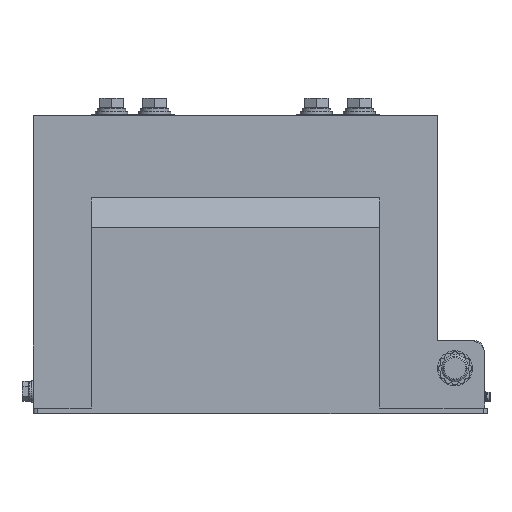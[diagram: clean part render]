
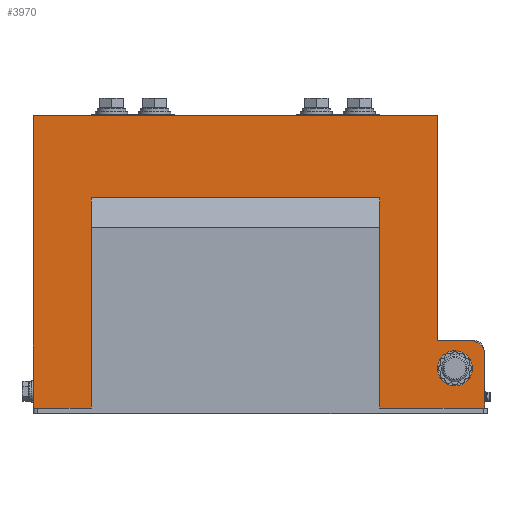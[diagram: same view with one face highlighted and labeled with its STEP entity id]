
A CAD part, top view. The second image highlights one B-rep face of the part: STEP entity #3970.
In plain terms, the highlighted planar face has unit normal (0, 0, 1).
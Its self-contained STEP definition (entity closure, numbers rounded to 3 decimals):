
#337 = ORIENTED_EDGE ( 'NONE', *, *, #16211, .F. ) ;
#388 = CARTESIAN_POINT ( 'NONE',  ( 163., 29.5, 52. ) ) ;
#433 = DIRECTION ( 'NONE',  ( 0., 0., 1. ) ) ;
#460 = DIRECTION ( 'NONE',  ( -1., 0., 0. ) ) ;
#1843 = LINE ( 'NONE', #21632, #16765 ) ;
#1857 = CARTESIAN_POINT ( 'NONE',  ( -107., 156., 52. ) ) ;
#2078 = ORIENTED_EDGE ( 'NONE', *, *, #9756, .T. ) ;
#2272 = CARTESIAN_POINT ( 'NONE',  ( -107., 0., 52. ) ) ;
#2539 = CARTESIAN_POINT ( 'NONE',  ( -150., 217., 52. ) ) ;
#2779 = LINE ( 'NONE', #6819, #4567 ) ;
#2828 = DIRECTION ( 'NONE',  ( 1., 0., 0. ) ) ;
#3149 = DIRECTION ( 'NONE',  ( 0., 1., 0. ) ) ;
#3489 = VERTEX_POINT ( 'NONE', #14036 ) ;
#3756 = CARTESIAN_POINT ( 'NONE',  ( 130., 50., 52. ) ) ;
#3821 = VERTEX_POINT ( 'NONE', #9157 ) ;
#3970 = ADVANCED_FACE ( 'NONE', ( #20253, #19315 ), #7451, .T. ) ;
#4399 = EDGE_CURVE ( 'NONE', #16585, #3821, #19595, .T. ) ;
#4416 = VECTOR ( 'NONE', #2828, 1000. ) ;
#4567 = VECTOR ( 'NONE', #6625, 1000. ) ;
#4639 = DIRECTION ( 'NONE',  ( 1., 0., 0. ) ) ;
#4715 = EDGE_CURVE ( 'NONE', #27281, #20368, #23004, .T. ) ;
#5421 = EDGE_CURVE ( 'NONE', #30264, #20272, #11884, .T. ) ;
#5491 = ORIENTED_EDGE ( 'NONE', *, *, #14392, .T. ) ;
#5595 = CIRCLE ( 'NONE', #6522, 13. ) ;
#5687 = ORIENTED_EDGE ( 'NONE', *, *, #20088, .F. ) ;
#5885 = ORIENTED_EDGE ( 'NONE', *, *, #16057, .F. ) ;
#5922 = ORIENTED_EDGE ( 'NONE', *, *, #19675, .T. ) ;
#6522 = AXIS2_PLACEMENT_3D ( 'NONE', #22218, #21452, #21481 ) ;
#6625 = DIRECTION ( 'NONE',  ( 0., 1., 0. ) ) ;
#6819 = CARTESIAN_POINT ( 'NONE',  ( 107., 0., 52. ) ) ;
#7406 = ORIENTED_EDGE ( 'NONE', *, *, #21506, .T. ) ;
#7451 = PLANE ( 'NONE',  #31288 ) ;
#7492 = CARTESIAN_POINT ( 'NONE',  ( 0., 0., 52. ) ) ;
#7571 = DIRECTION ( 'NONE',  ( 1., 0., 0. ) ) ;
#7852 = CARTESIAN_POINT ( 'NONE',  ( 150., 50., 52. ) ) ;
#8053 = DIRECTION ( 'NONE',  ( 0., 0., 1. ) ) ;
#8337 = CIRCLE ( 'NONE', #26566, 13. ) ;
#8679 = EDGE_CURVE ( 'NONE', #27428, #22296, #5595, .T. ) ;
#9157 = CARTESIAN_POINT ( 'NONE',  ( 185., 0., 52. ) ) ;
#9163 = LINE ( 'NONE', #2272, #16076 ) ;
#9756 = EDGE_CURVE ( 'NONE', #3821, #3489, #9809, .T. ) ;
#9776 = VECTOR ( 'NONE', #20464, 1000. ) ;
#9788 = CARTESIAN_POINT ( 'NONE',  ( -150., 0., 52. ) ) ;
#9809 = LINE ( 'NONE', #21009, #9776 ) ;
#10072 = CARTESIAN_POINT ( 'NONE',  ( 150., 217., 52. ) ) ;
#10554 = VERTEX_POINT ( 'NONE', #21638 ) ;
#11111 = ORIENTED_EDGE ( 'NONE', *, *, #4715, .T. ) ;
#11718 = ORIENTED_EDGE ( 'NONE', *, *, #15509, .T. ) ;
#11884 = LINE ( 'NONE', #17297, #12101 ) ;
#12101 = VECTOR ( 'NONE', #17262, 1000. ) ;
#12681 = AXIS2_PLACEMENT_3D ( 'NONE', #15914, #15937, #15975 ) ;
#12786 = CARTESIAN_POINT ( 'NONE',  ( 107., 156., 52. ) ) ;
#12915 = CARTESIAN_POINT ( 'NONE',  ( 107., 0., 52. ) ) ;
#13034 = CARTESIAN_POINT ( 'NONE',  ( -150., 0., 52. ) ) ;
#13076 = DIRECTION ( 'NONE',  ( 0., 1., 0. ) ) ;
#13667 = ORIENTED_EDGE ( 'NONE', *, *, #4399, .T. ) ;
#13702 = EDGE_LOOP ( 'NONE', ( #337, #11111, #11718, #5687, #5922, #7406, #27181, #5885, #13667, #2078, #5491 ) ) ;
#14036 = CARTESIAN_POINT ( 'NONE',  ( 185., 40., 52. ) ) ;
#14392 = EDGE_CURVE ( 'NONE', #3489, #20185, #21896, .T. ) ;
#14567 = EDGE_LOOP ( 'NONE', ( #20310, #30509 ) ) ;
#14712 = VERTEX_POINT ( 'NONE', #9788 ) ;
#15188 = CARTESIAN_POINT ( 'NONE',  ( 175., 50., 52. ) ) ;
#15509 = EDGE_CURVE ( 'NONE', #20368, #30644, #23925, .T. ) ;
#15525 = LINE ( 'NONE', #13034, #28725 ) ;
#15914 = CARTESIAN_POINT ( 'NONE',  ( 175., 40., 52. ) ) ;
#15937 = DIRECTION ( 'NONE',  ( 0., 0., 1. ) ) ;
#15975 = DIRECTION ( 'NONE',  ( -1., 0., 0. ) ) ;
#16057 = EDGE_CURVE ( 'NONE', #16585, #20272, #2779, .T. ) ;
#16076 = VECTOR ( 'NONE', #3149, 1000. ) ;
#16186 = LINE ( 'NONE', #3756, #4416 ) ;
#16211 = EDGE_CURVE ( 'NONE', #27281, #20185, #16186, .T. ) ;
#16585 = VERTEX_POINT ( 'NONE', #12915 ) ;
#16765 = VECTOR ( 'NONE', #21038, 1000. ) ;
#17262 = DIRECTION ( 'NONE',  ( 1., 0., 0. ) ) ;
#17297 = CARTESIAN_POINT ( 'NONE',  ( 0., 156., 52. ) ) ;
#18091 = VECTOR ( 'NONE', #30414, 1000. ) ;
#19315 = FACE_BOUND ( 'NONE', #14567, .T. ) ;
#19595 = LINE ( 'NONE', #28592, #26287 ) ;
#19675 = EDGE_CURVE ( 'NONE', #14712, #10554, #1843, .T. ) ;
#20088 = EDGE_CURVE ( 'NONE', #14712, #30644, #15525, .T. ) ;
#20185 = VERTEX_POINT ( 'NONE', #15188 ) ;
#20253 = FACE_OUTER_BOUND ( 'NONE', #13702, .T. ) ;
#20272 = VERTEX_POINT ( 'NONE', #12786 ) ;
#20310 = ORIENTED_EDGE ( 'NONE', *, *, #8679, .F. ) ;
#20368 = VERTEX_POINT ( 'NONE', #10072 ) ;
#20464 = DIRECTION ( 'NONE',  ( 0., 1., 0. ) ) ;
#21009 = CARTESIAN_POINT ( 'NONE',  ( 185., 0., 52. ) ) ;
#21038 = DIRECTION ( 'NONE',  ( 1., 0., 0. ) ) ;
#21452 = DIRECTION ( 'NONE',  ( 0., 0., 1. ) ) ;
#21481 = DIRECTION ( 'NONE',  ( -1., 0., 0. ) ) ;
#21506 = EDGE_CURVE ( 'NONE', #10554, #30264, #9163, .T. ) ;
#21632 = CARTESIAN_POINT ( 'NONE',  ( 0., 0., 52. ) ) ;
#21638 = CARTESIAN_POINT ( 'NONE',  ( -107., 0., 52. ) ) ;
#21896 = CIRCLE ( 'NONE', #12681, 10. ) ;
#22178 = VECTOR ( 'NONE', #30173, 1000. ) ;
#22218 = CARTESIAN_POINT ( 'NONE',  ( 163., 29.5, 52. ) ) ;
#22296 = VERTEX_POINT ( 'NONE', #24560 ) ;
#23004 = LINE ( 'NONE', #29267, #22178 ) ;
#23477 = CARTESIAN_POINT ( 'NONE',  ( 176., 29.5, 52. ) ) ;
#23925 = LINE ( 'NONE', #30348, #18091 ) ;
#24560 = CARTESIAN_POINT ( 'NONE',  ( 150., 29.5, 52. ) ) ;
#26287 = VECTOR ( 'NONE', #4639, 1000. ) ;
#26566 = AXIS2_PLACEMENT_3D ( 'NONE', #388, #433, #460 ) ;
#27181 = ORIENTED_EDGE ( 'NONE', *, *, #5421, .T. ) ;
#27281 = VERTEX_POINT ( 'NONE', #7852 ) ;
#27428 = VERTEX_POINT ( 'NONE', #23477 ) ;
#28592 = CARTESIAN_POINT ( 'NONE',  ( 0., 0., 52. ) ) ;
#28725 = VECTOR ( 'NONE', #13076, 1000. ) ;
#29267 = CARTESIAN_POINT ( 'NONE',  ( 150., 0., 52. ) ) ;
#30173 = DIRECTION ( 'NONE',  ( 0., 1., 0. ) ) ;
#30264 = VERTEX_POINT ( 'NONE', #1857 ) ;
#30348 = CARTESIAN_POINT ( 'NONE',  ( 0., 217., 52. ) ) ;
#30414 = DIRECTION ( 'NONE',  ( -1., 0., 0. ) ) ;
#30509 = ORIENTED_EDGE ( 'NONE', *, *, #30544, .F. ) ;
#30544 = EDGE_CURVE ( 'NONE', #22296, #27428, #8337, .T. ) ;
#30644 = VERTEX_POINT ( 'NONE', #2539 ) ;
#31288 = AXIS2_PLACEMENT_3D ( 'NONE', #7492, #8053, #7571 ) ;
